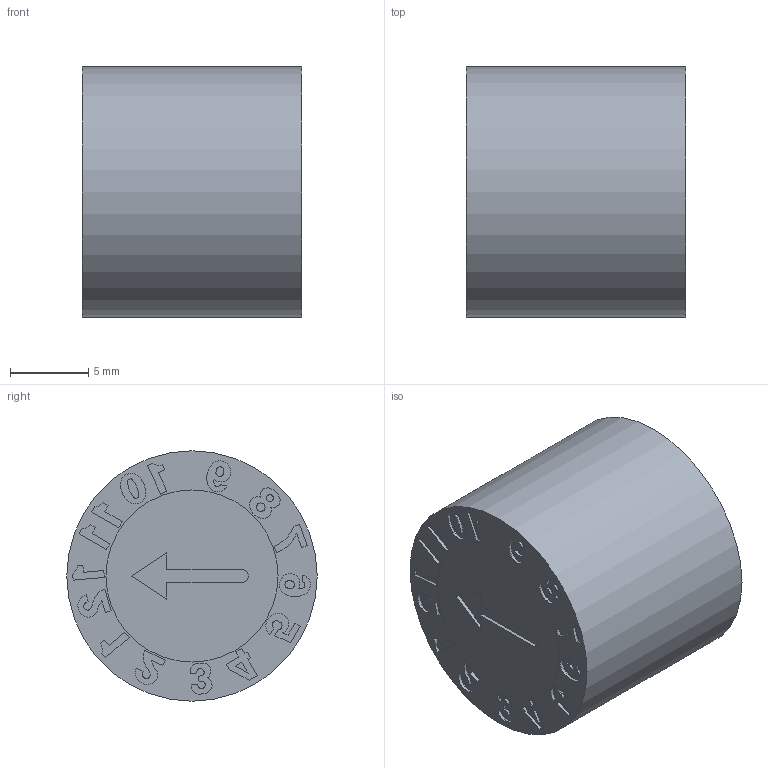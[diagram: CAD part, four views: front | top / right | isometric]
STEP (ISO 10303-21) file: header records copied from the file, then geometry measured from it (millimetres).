
FILE_DESCRIPTION( ( 'STEP AP203' ), ' ' );
FILE_NAME( 'p:/temp/worker_125/3512_3620/app_56_12017012412483358504760260eae72_000000_00_00_000000/format_0/UOM16.stp', '2017-01-24T11:48:34', ( '' ), ( '' ), ' ', 'PARTsolutions', ' ' );
FILE_SCHEMA( ( 'CONFIG_CONTROL_DESIGN' ) );
Length unit declared in the file: millimetre
Products named in the file (3): UOM16; _UOM161; _UOM162
Assembly tree (2 placements, depth 2):
  UOM16
    _UOM161
    _UOM162
Bounding box: 14 x 16 x 16 mm (x, y, z)
Volume: 2062.5 mm3; surface area: 1972.4 mm2
Topology: 2 solids, 2 shells, 198 faces, 498 edges, 332 vertices
Faces by surface type: plane 118, cylinder 80
Full cylindrical faces by diameter (mm): 0.444 x1, 0.547 x1, 4.56 x2, 9.12 x2, 11 x4, 16 x1
Entity records: 6019 total; most frequent: DIRECTION 1049, CARTESIAN_POINT 1020, ORIENTED_EDGE 974, EDGE_CURVE 487, AXIS2_PLACEMENT_3D 361, VERTEX_POINT 332, LINE 327, VECTOR 327
